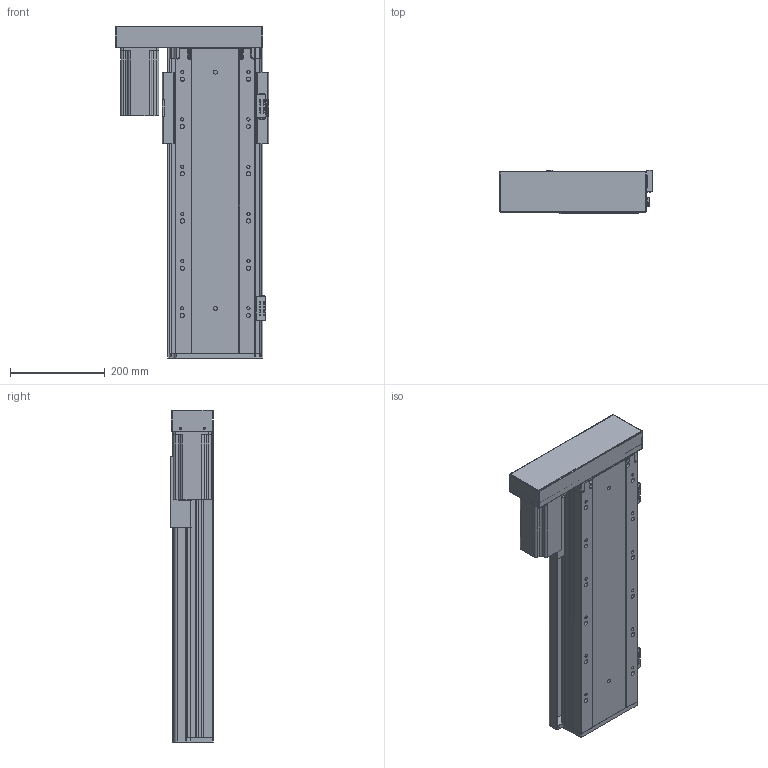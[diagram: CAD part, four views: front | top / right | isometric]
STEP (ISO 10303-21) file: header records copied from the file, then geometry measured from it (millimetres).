
FILE_DESCRIPTION (( 'STEP AP203' ), '1' );
FILE_NAME ('RY170FB-L2020-300-LK.SLDASM_400.step', '2021-02-23T03:02:27', ( '盈信电脑' ), ( '东莞市道滘镇水果街19号' ), 'SwSTEP 2.0', 'SolidWorks 2012', '' );
FILE_SCHEMA (( 'CONFIG_CONTROL_DESIGN' ));
Length unit declared in the file: millimetre
Products named in the file (16): RY170FB-左右折电机安装板750W; RY170FB-酘衵殏萇儂欶750W; RY170FB-L2020-300-LK.SLDASM_400; RY140-674嫖萇耀輸; RY140FB-674嫖萇覜茼え; RY140直线电机感应器674光电安装座; RY170FB-300蛌殏奻裔-LK_400; 覜茼ん674; RY170FB-綴裔啣; 怢湛750W萇儂ㄗ80遺ㄘ; RY170FB-铝滑块(25丝杆）; RY170FB-转折电机端支撑座(7002); 滅袉蝶18-10; RY170FB-300蛌殏倰第菁釱-LK_400; 滅袉蝶18-28
Assembly tree (18 placements, depth 3):
  RY170FB-L2020-300-LK.SLDASM_400
    RY170FB-300蛌殏倰第菁釱-LK_400
    滅袉蝶18-28
    滅袉蝶18-10
    RY170FB-转折电机端支撑座(7002)
    怢湛750W萇儂ㄗ80遺ㄘ
    RY170FB-铝滑块(25丝杆）
    RY170FB-綴裔啣
    RY170FB-300蛌殏奻裔-LK_400
    RY140-674嫖萇耀輸
      覜茼ん674  x2
      RY140直线电机感应器674光电安装座
    RY140-674嫖萇耀輸
      覜茼ん674
      RY140直线电机感应器674光电安装座
    RY140FB-674嫖萇覜茼え
    RY170FB-左右折电机安装板750W
    RY170FB-酘衵殏萇儂欶750W
Bounding box: 323.95 x 90.5 x 702.7 mm (x, y, z)
Volume: 5165044.8 mm3; surface area: 1443705.1 mm2
Topology: 16 solids, 16 shells, 1501 faces, 4230 edges, 2694 vertices
Faces by surface type: cylinder 769, plane 588, cone 136, bspline 8
Entity records: 47095 total; most frequent: CARTESIAN_POINT 10951, ORIENTED_EDGE 7240, DIRECTION 7116, EDGE_CURVE 3620, AXIS2_PLACEMENT_3D 2581, VERTEX_POINT 2374, LINE 1954, VECTOR 1954
